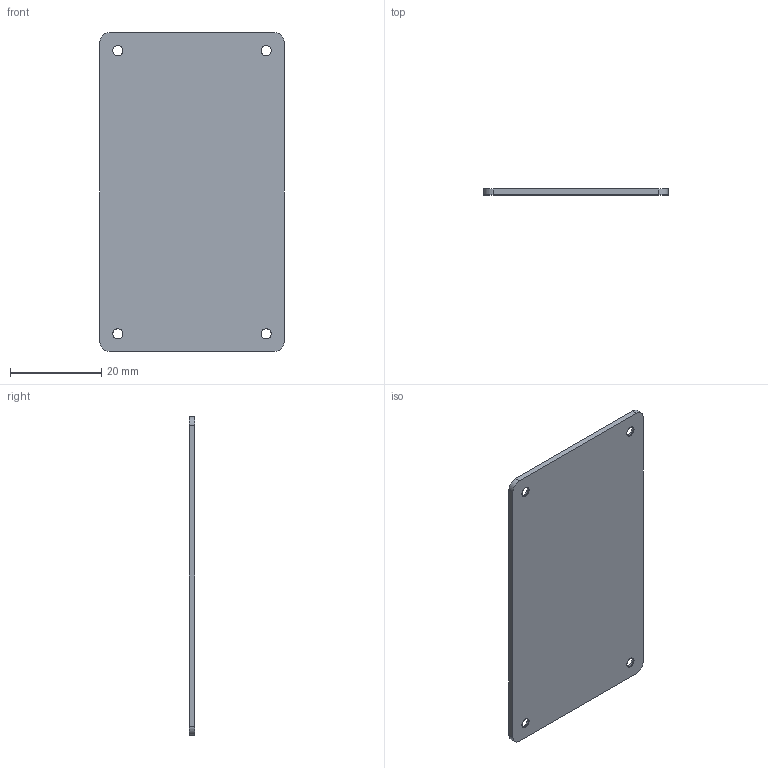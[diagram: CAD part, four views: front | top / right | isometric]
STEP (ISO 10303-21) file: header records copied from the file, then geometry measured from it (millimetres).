
FILE_DESCRIPTION(/* description */ ('VariCAD 2008 3.04 AP-203'),/* implementation_level */ '2;1');
FILE_NAME(/* name */ '0353-18-07',/* time_stamp */ '2009-04-15T16:28:39-06:00',/* author */ (''),/* organization */ (''),/* preprocessor_version */ 'ST-DEVELOPER v12',/* originating_system */ 'VariCAD 2008 3.04; kernel version (20080715)',/* authorisation */ '');
FILE_SCHEMA (('CONFIG_CONTROL_DESIGN'));
Length unit declared in the file: millimetre
Products named in the file (1): Part
Bounding box: 40.3 x 1.25 x 69.8 mm (x, y, z)
Volume: 3472.9 mm3; surface area: 5890.6 mm2
Topology: 1 solids, 1 shells, 34 faces, 80 edges, 48 vertices
Faces by surface type: cone 16, cylinder 12, plane 6
Entity records: 1038 total; most frequent: DIRECTION 192, CARTESIAN_POINT 164, ORIENTED_EDGE 160, EDGE_CURVE 80, AXIS2_PLACEMENT_3D 76, VERTEX_POINT 48, EDGE_LOOP 42, LINE 40
